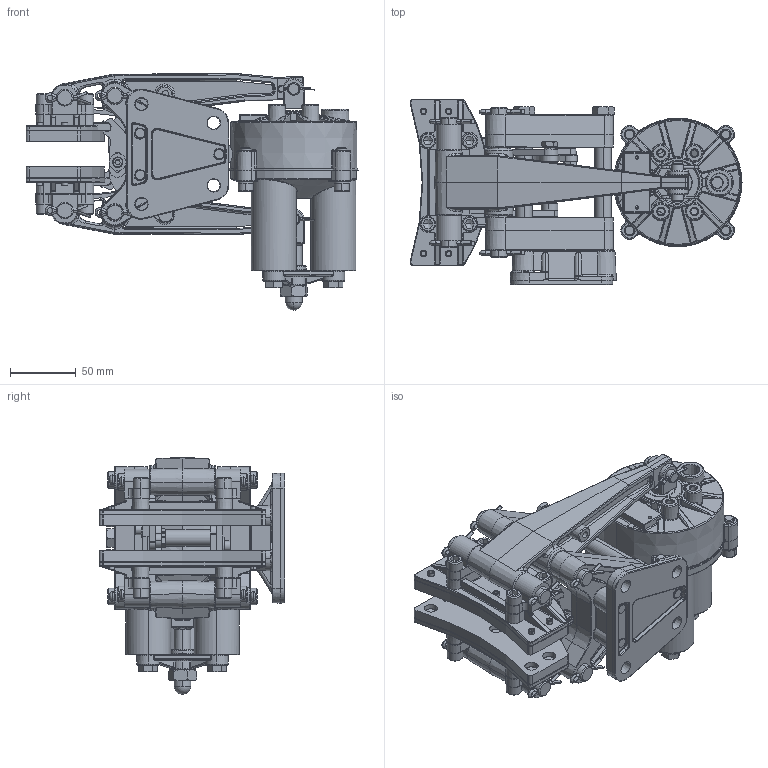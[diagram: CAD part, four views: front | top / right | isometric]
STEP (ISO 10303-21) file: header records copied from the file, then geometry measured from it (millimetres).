
FILE_DESCRIPTION (( 'STEP AP214' ), '1' );
FILE_NAME ('5019-SA-RH.STEP', '2020-04-09T19:08:49', ( '' ), ( '' ), 'SwSTEP 2.0', 'SolidWorks 2019', '' );
FILE_SCHEMA (( 'AUTOMOTIVE_DESIGN' ));
Length unit declared in the file: inch
Products named in the file (2): 5019-SA-RH
Bounding box: 253.14 x 141.52 x 180.55 mm (x, y, z)
Surface area: 309781.1 mm2 (no closed solid volume)
Topology: 0 solids, 116 shells, 2890 faces, 8327 edges, 5307 vertices
Faces by surface type: cylinder 800, plane 756, bspline 509, cone 451, torus 352, sphere 22
Entity records: 153516 total; most frequent: CARTESIAN_POINT 46606, ORIENTED_EDGE 14135, DIRECTION 14003, EDGE_CURVE 8227, AXIS2_PLACEMENT_3D 5566, VERTEX_POINT 5307, CIRCLE 3183, EDGE_LOOP 3144
